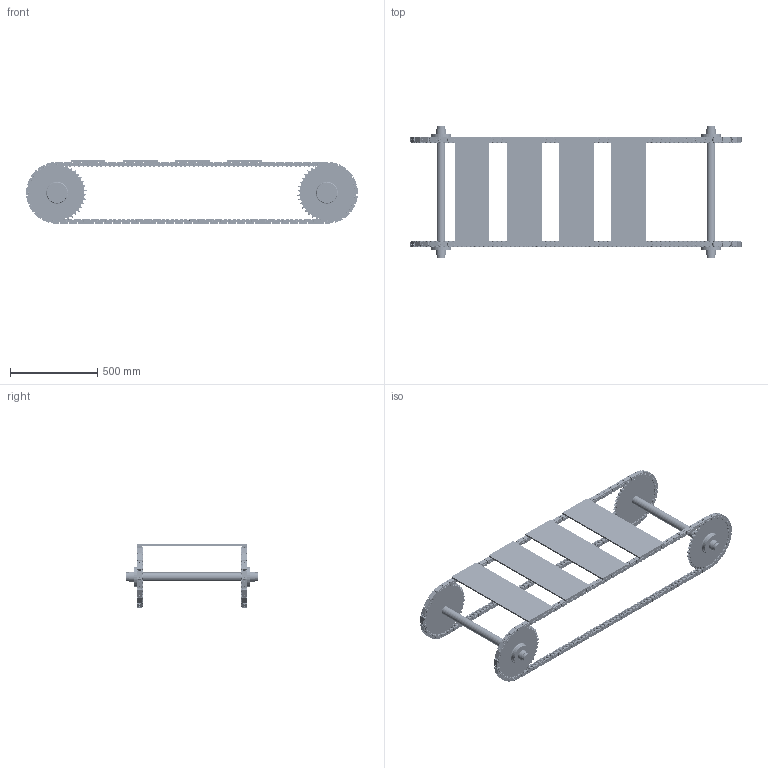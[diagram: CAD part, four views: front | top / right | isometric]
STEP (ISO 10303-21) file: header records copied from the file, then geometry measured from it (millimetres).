
FILE_DESCRIPTION(/* description */ ('Unknown'),/* implementation_level */ '2;1');
FILE_NAME(/* name */ 'ESTEIRA COM CORRENTE ESPECIAL PARA LIXADEIRA DE BORDA',/* time_stamp */ '2020-02-26T15:45:03-03:00',/* author */ ('Unknown'),/* organization */ ('Unknown'),/* preprocessor_version */ 'ST-DEVELOPER v16.7',/* originating_system */ 'DEX',/* authorisation */ $);
FILE_SCHEMA (('AUTOMOTIVE_DESIGN {1 0 10303 214 3 1 1}'));
Length unit declared in the file: millimetre
Products named in the file (14): ESTEIRA COM CORRENTE ESPECIAL PARA LIXADEIRA DE BORDA; 1.80.40; ELO.INT.ASA.80.MTG.LOGO; LAT.INT.80.GRAVAÇÃO; BUCHA.80; ROLO.80; ELO.EXT.ASA.80.LIXADEIRADEBORDA.MTG; LAT.EXT.80.ORIGINAL.LIXADEIRA; LAT.EXT.80.ORIGINAL.GRAVAÇÃO.LIXADEIRA; PINO.80.LIXADEIRA; ELO.EXT.ASA.80.LIXADEIRADEBORDA.MTG_mir; LAT.EXT.80.ORIGINAL.GRAVAÇÃO.LIXADEIRA_mir; EIXO.ASA80.GRANDE; tabua
Assembly tree (350 placements, depth 3):
  ESTEIRA COM CORRENTE ESPECIAL PARA LIXADEIRA DE BORDA
    1.80.40  x4
    ELO.INT.ASA.80.MTG.LOGO  x162
      LAT.INT.80.GRAVAÇÃO
      BUCHA.80
      ROLO.80
    ELO.EXT.ASA.80.LIXADEIRADEBORDA.MTG  x81
      LAT.EXT.80.ORIGINAL.LIXADEIRA
      LAT.EXT.80.ORIGINAL.GRAVAÇÃO.LIXADEIRA
      PINO.80.LIXADEIRA
    ELO.EXT.ASA.80.LIXADEIRADEBORDA.MTG_mir  x81
      LAT.EXT.80.ORIGINAL.LIXADEIRA
      LAT.EXT.80.ORIGINAL.GRAVAÇÃO.LIXADEIRA_mir
      PINO.80.LIXADEIRA
    EIXO.ASA80.GRANDE  x2
    tabua  x4
Bounding box: 1906.67 x 758 x 366.57 mm (x, y, z)
Volume: 17458214.2 mm3; surface area: 5769936.9 mm2
Topology: 1792 solids, 1792 shells, 27112 faces, 62778 edges, 41530 vertices
Faces by surface type: plane 12522, cylinder 10540, bspline 3078, cone 648, torus 324
Full cylindrical faces by diameter (mm): 0.418 x162, 0.419 x162, 5 x324, 7.122 x162, 7.92 x1944, 9.92 x1296, 15.88 x324, 50 x10, 60 x4, 117 x4
Entity records: 18717 total; most frequent: CARTESIAN_POINT 6347, DIRECTION 2512, ORIENTED_EDGE 2090, AXIS2_PLACEMENT_3D 1094, EDGE_CURVE 1045, VERTEX_POINT 715, EDGE_LOOP 478, FACE_BOUND 478
